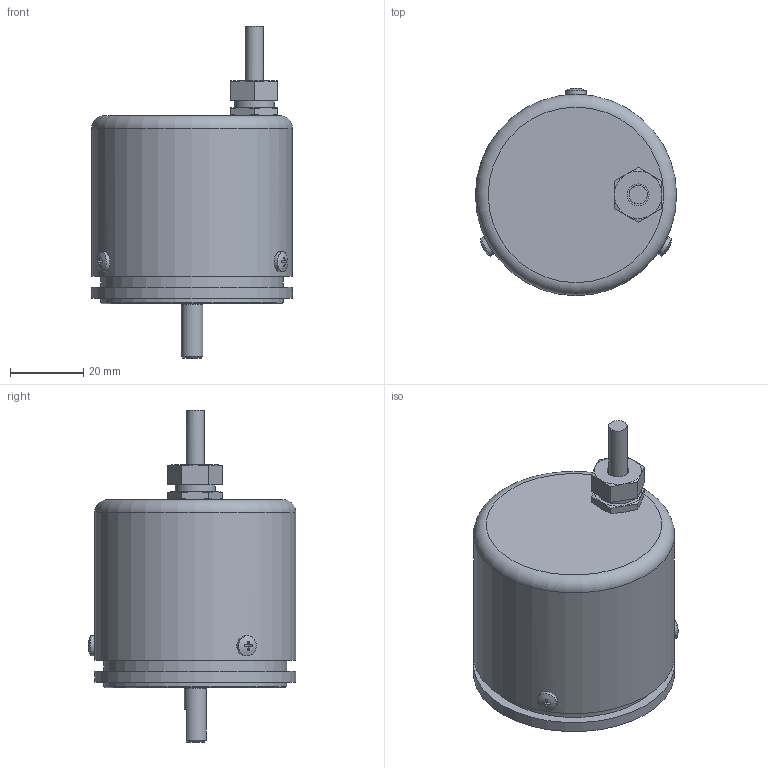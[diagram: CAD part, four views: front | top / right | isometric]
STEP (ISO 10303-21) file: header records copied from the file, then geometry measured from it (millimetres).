
FILE_DESCRIPTION(('STEP AP214'),'1');
FILE_NAME('.stp','2023-04-20T06:50:03',(' '),(' '),'Spatial InterOp 3D',' ',' ');
FILE_SCHEMA(('AUTOMOTIVE_DESIGN { 1 0 10303 214 1 1 1 1 }'));
Length unit declared in the file: millimetre
Products named in the file (1):  MEWS-45-＊＊＊-05□▽
Bounding box: 55 x 56.74 x 90.8 mm (x, y, z)
Volume: 121895 mm3; surface area: 15599.8 mm2
Topology: 1 solids, 1 shells, 126 faces, 306 edges, 204 vertices
Faces by surface type: plane 71, cylinder 28, cone 22, sphere 3, torus 2
Full cylindrical faces by diameter (mm): 0.63 x1, 2.5 x6, 2.6 x3, 3.3 x3, 5 x1, 5.5 x3, 6 x2, 11 x1, 28 x1, 50 x2, 55 x2
Entity records: 5053 total; most frequent: CARTESIAN_POINT 1259, DIRECTION 555, ORIENTED_EDGE 512, EDGE_CURVE 256, AXIS2_PLACEMENT_3D 222, VERTEX_POINT 188, EDGE_LOOP 181, FACE_OUTER_BOUND 156
